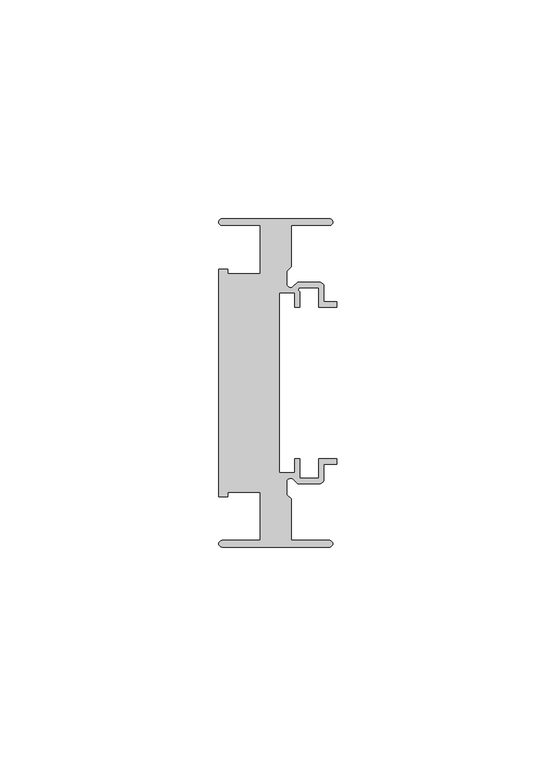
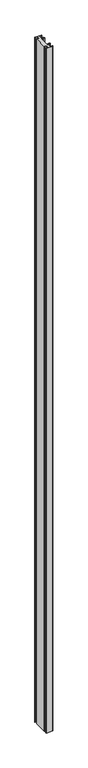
"""IFC4 building model written with IfcOpenShell, lengths in millimetres: member geometry, Прямоугольный импост : 7-AMG-2-Профиль 26Х75 Верх П."""

from ifc_helpers import new_model, si_unit, point, frame, frame_2d, origin, place, context, project, spatial, polyline, circle_curve, trimmed, segment, composite_curve, outline, extrude, source, transform, mapped, element, save


def member_03ab2221(model_context):
    return source(origin(), model_context, "Body", "SweptSolid", [
        extrude(outline(composite_curve([segment(polyline([(-1.7, -37.5), (-26.25, -37.5)]), True, "CONTINUOUS"), segment(trimmed(circle_curve(frame_2d((-26.25, -36.75)), 0.75), [point((-26.25, -37.5))], [point((-26.25, -36.0))], False, "CARTESIAN"), True, "CONTINUOUS"), segment(polyline([(-26.25, -36.0), (-17.5, -36.0), (-17.5, -25.0), (-24.9359877, -25.0), (-24.9359877, -26.0), (-27.0, -26.0), (-27.0, 26.0), (-24.9359877, 26.0), (-24.9359877, 25.0), (-17.5, 25.0), (-17.5, 36.0), (-26.25, 36.0)]), True, "CONTINUOUS"), segment(trimmed(circle_curve(frame_2d((-26.25, 36.75)), 0.75), [point((-26.25, 36.0))], [point((-26.25, 37.5))], False, "CARTESIAN"), True, "CONTINUOUS"), segment(polyline([(-26.25, 37.5), (-1.7, 37.5)]), True, "CONTINUOUS"), segment(trimmed(circle_curve(frame_2d((-1.7, 36.75)), 0.75), [point((-1.7, 37.5))], [point((-1.7, 36.0))], False, "CARTESIAN"), True, "CONTINUOUS"), segment(polyline([(-1.7, 36.0), (-10.5, 36.0), (-10.5, 26.5029437), (-11.5, 25.5029437), (-11.5, 22.6727922)]), True, "CONTINUOUS"), segment(trimmed(circle_curve(frame_2d((-10.6, 22.6727922)), 0.9), [point((-11.5, 22.6727922))], [point((-9.9636039, 22.0363961))], True, "CARTESIAN"), True, "CONTINUOUS"), segment(polyline([(-9.9636039, 22.0363961), (-9.0, 23.0), (-4.0, 23.0)]), True, "CONTINUOUS"), segment(trimmed(circle_curve(frame_2d((-4.0, 22.0)), 1.0), [point((-4.0, 23.0))], [point((-3.0, 22.0))], False, "CARTESIAN"), True, "CONTINUOUS"), segment(polyline([(-3.0, 22.0), (-3.0, 18.55), (0.0, 18.55), (0.0, 17.35), (-4.2, 17.35), (-4.2, 21.8), (-8.5029437, 21.8)]), True, "CONTINUOUS"), segment(trimmed(circle_curve(frame_2d((-8.3343131, 21.3314262)), 0.4979937), [point((-8.5029437, 21.8))], [point((-8.45, 20.8470563))], True, "CARTESIAN"), True, "CONTINUOUS"), segment(polyline([(-8.45, 20.8470563), (-8.45, 17.35), (-9.65, 17.35), (-9.65, 20.55), (-13.15, 20.55), (-13.15, -20.55), (-9.65, -20.55), (-9.65, -17.35), (-8.45, -17.35), (-8.45, -21.8), (-4.2, -21.8), (-4.2, -17.35), (0.0, -17.35), (0.0, -18.55), (-3.0, -18.55), (-3.0, -22.0)]), True, "CONTINUOUS"), segment(trimmed(circle_curve(frame_2d((-4.0, -22.0)), 1.0), [point((-3.0, -22.0))], [point((-4.0, -23.0))], False, "CARTESIAN"), True, "CONTINUOUS"), segment(polyline([(-4.0, -23.0), (-9.0, -23.0), (-9.9636039, -22.0363961)]), True, "CONTINUOUS"), segment(trimmed(circle_curve(frame_2d((-10.6, -22.6727922)), 0.9), [point((-9.9636039, -22.0363961))], [point((-11.5, -22.6727922))], True, "CARTESIAN"), True, "CONTINUOUS"), segment(polyline([(-11.5, -22.6727922), (-11.5, -25.5029437), (-10.5, -26.5029437), (-10.5, -36.0), (-1.7, -36.0)]), True, "CONTINUOUS"), segment(trimmed(circle_curve(frame_2d((-1.7, -36.75)), 0.75), [point((-1.7, -36.0))], [point((-1.7, -37.5))], False, "CARTESIAN"), True, "CONTINUOUS")], self_intersect=False)), frame((0.0, 0.0, -2800.0), z_axis=(0.0, 0.0, 1.0), x_axis=(1.0, 0.0, 0.0)), (0.0, 0.0, 1.0), 2800.0),
    ])


if __name__ == "__main__":
    model = new_model("IFC4")
    model_context = context("Model", 3, world=origin())
    ifc_project = project(units=[si_unit("LENGTHUNIT", "METRE", prefix="MILLI")], contexts=[model_context])
    site = spatial("IfcSite", under=ifc_project)
    building = spatial("IfcBuilding", under=site)
    placement = place(None, origin())
    member_shape = member_03ab2221(model_context)
    element("IfcMember", 1, ObjectType="Прямоугольный импост : 7-AMG-2-Профиль 26Х75 Верх П", at=placement, inside=building, context=model_context, shape_type="MappedRepresentation", body=[
        mapped(member_shape, transform((0.0, 0.0, 0.0), x_axis=(1.0, 0.0, 0.0), y_axis=(0.0, 1.0, 0.0), z_axis=(0.0, 0.0, 1.0))),
    ])
    save(model, "model.ifc")
